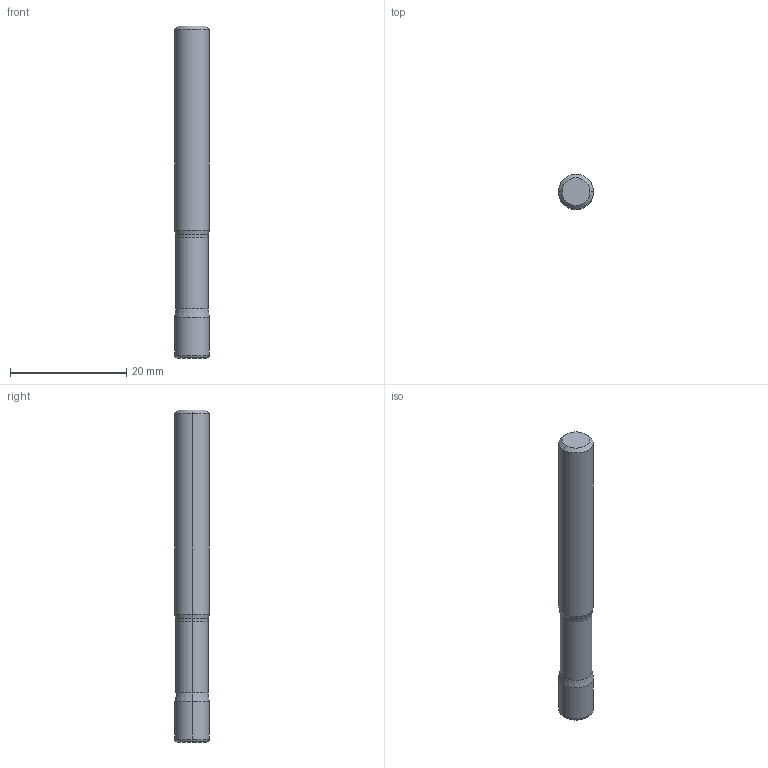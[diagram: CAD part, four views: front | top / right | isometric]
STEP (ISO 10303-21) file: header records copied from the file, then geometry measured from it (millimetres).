
FILE_DESCRIPTION (( 'STEP AP214' ), '1' );
FILE_NAME ('641.060.05_3D-model.step', '2022-02-18T23:20:04', ( '' ), ( '' ), 'SwSTEP 2.0', 'SolidWorks 2020', '' );
FILE_SCHEMA (( 'AUTOMOTIVE_DESIGN' ));
Length unit declared in the file: millimetre
Products named in the file (3): 641.060.05_3D-model; CUT-3D^Baugr111; NOCUT-3D^Baugr111
Assembly tree (2 placements, depth 2):
  641.060.05_3D-model
    CUT-3D^Baugr111
    NOCUT-3D^Baugr111
Bounding box: 6 x 6 x 57 mm (x, y, z)
Volume: 1545.3 mm3; surface area: 1155.6 mm2
Topology: 2 solids, 2 shells, 20 faces, 36 edges, 20 vertices
Faces by surface type: cylinder 6, cone 6, torus 4, plane 4
Entity records: 610 total; most frequent: DIRECTION 116, CARTESIAN_POINT 84, ORIENTED_EDGE 72, AXIS2_PLACEMENT_3D 52, EDGE_CURVE 36, CIRCLE 24, VERTEX_POINT 20, EDGE_LOOP 20
